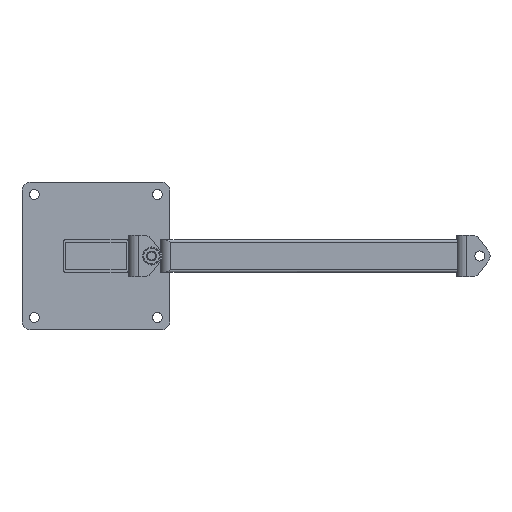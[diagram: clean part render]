
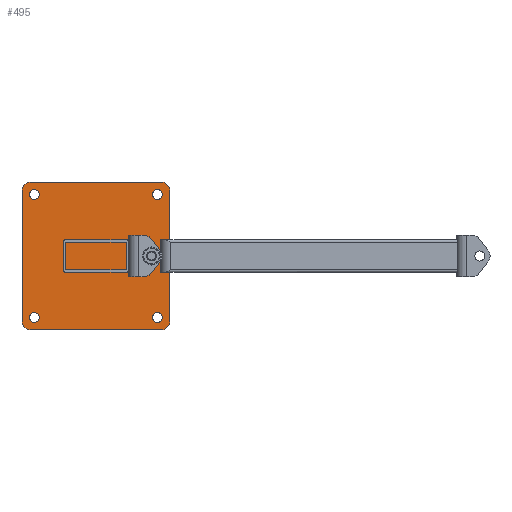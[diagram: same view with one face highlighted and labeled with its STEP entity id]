
A CAD part, front view. The second image highlights one B-rep face of the part: STEP entity #495.
In plain terms, the highlighted planar face has unit normal (0, -1, 0) as drawn and (0, 1, 0) by its records, which use the part's own axes.
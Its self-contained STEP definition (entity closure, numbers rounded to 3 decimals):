
#124=CARTESIAN_POINT('',(-80.,4.,-80.));
#125=DIRECTION('',(0.,1.,0.));
#126=DIRECTION('',(0.,0.,-1.));
#127=AXIS2_PLACEMENT_3D('',#124,#125,#126);
#129=DIRECTION('',(-1.,0.,0.));
#130=VECTOR('',#129,160.);
#131=CARTESIAN_POINT('',(80.,4.,-90.));
#132=LINE('',#131,#130);
#133=CARTESIAN_POINT('',(80.,4.,-80.));
#134=DIRECTION('',(0.,1.,0.));
#135=DIRECTION('',(1.,0.,0.));
#136=AXIS2_PLACEMENT_3D('',#133,#134,#135);
#138=DIRECTION('',(0.,0.,-1.));
#139=VECTOR('',#138,160.);
#140=CARTESIAN_POINT('',(90.,4.,80.));
#141=LINE('',#140,#139);
#142=CARTESIAN_POINT('',(80.,4.,80.));
#143=DIRECTION('',(0.,1.,0.));
#144=DIRECTION('',(0.,0.,1.));
#145=AXIS2_PLACEMENT_3D('',#142,#143,#144);
#147=DIRECTION('',(1.,0.,0.));
#148=VECTOR('',#147,160.);
#149=CARTESIAN_POINT('',(-80.,4.,90.));
#150=LINE('',#149,#148);
#151=CARTESIAN_POINT('',(-80.,4.,80.));
#152=DIRECTION('',(0.,1.,0.));
#153=DIRECTION('',(-1.,0.,0.));
#154=AXIS2_PLACEMENT_3D('',#151,#152,#153);
#156=DIRECTION('',(0.,0.,1.));
#157=VECTOR('',#156,160.);
#158=CARTESIAN_POINT('',(-90.,4.,-80.));
#159=LINE('',#158,#157);
#160=CARTESIAN_POINT('',(-75.,4.,-75.));
#161=DIRECTION('',(0.,-1.,0.));
#162=DIRECTION('',(1.,0.,0.));
#163=AXIS2_PLACEMENT_3D('',#160,#161,#162);
#165=CARTESIAN_POINT('',(-75.,4.,-75.));
#166=DIRECTION('',(0.,-1.,0.));
#167=DIRECTION('',(-1.,0.,0.));
#168=AXIS2_PLACEMENT_3D('',#165,#166,#167);
#170=CARTESIAN_POINT('',(75.,4.,-75.));
#171=DIRECTION('',(0.,-1.,0.));
#172=DIRECTION('',(1.,0.,0.));
#173=AXIS2_PLACEMENT_3D('',#170,#171,#172);
#175=CARTESIAN_POINT('',(75.,4.,-75.));
#176=DIRECTION('',(0.,-1.,0.));
#177=DIRECTION('',(-1.,0.,0.));
#178=AXIS2_PLACEMENT_3D('',#175,#176,#177);
#180=CARTESIAN_POINT('',(-75.,4.,75.));
#181=DIRECTION('',(0.,-1.,0.));
#182=DIRECTION('',(1.,0.,0.));
#183=AXIS2_PLACEMENT_3D('',#180,#181,#182);
#185=CARTESIAN_POINT('',(-75.,4.,75.));
#186=DIRECTION('',(0.,-1.,0.));
#187=DIRECTION('',(-1.,0.,0.));
#188=AXIS2_PLACEMENT_3D('',#185,#186,#187);
#190=CARTESIAN_POINT('',(75.,4.,75.));
#191=DIRECTION('',(0.,-1.,0.));
#192=DIRECTION('',(1.,0.,0.));
#193=AXIS2_PLACEMENT_3D('',#190,#191,#192);
#195=CARTESIAN_POINT('',(75.,4.,75.));
#196=DIRECTION('',(0.,-1.,0.));
#197=DIRECTION('',(-1.,0.,0.));
#198=AXIS2_PLACEMENT_3D('',#195,#196,#197);
#248=CARTESIAN_POINT('',(-69.,4.,-75.));
#249=CARTESIAN_POINT('',(-81.,4.,-75.));
#250=VERTEX_POINT('',#248);
#251=VERTEX_POINT('',#249);
#252=CARTESIAN_POINT('',(81.,4.,-75.));
#253=CARTESIAN_POINT('',(69.,4.,-75.));
#254=VERTEX_POINT('',#252);
#255=VERTEX_POINT('',#253);
#256=CARTESIAN_POINT('',(-69.,4.,75.));
#257=CARTESIAN_POINT('',(-81.,4.,75.));
#258=VERTEX_POINT('',#256);
#259=VERTEX_POINT('',#257);
#260=CARTESIAN_POINT('',(81.,4.,75.));
#261=CARTESIAN_POINT('',(69.,4.,75.));
#262=VERTEX_POINT('',#260);
#263=VERTEX_POINT('',#261);
#268=CARTESIAN_POINT('',(-80.,4.,-90.));
#269=VERTEX_POINT('',#268);
#270=CARTESIAN_POINT('',(-90.,4.,-80.));
#271=VERTEX_POINT('',#270);
#276=CARTESIAN_POINT('',(90.,4.,-80.));
#277=VERTEX_POINT('',#276);
#278=CARTESIAN_POINT('',(80.,4.,-90.));
#279=VERTEX_POINT('',#278);
#284=CARTESIAN_POINT('',(-90.,4.,80.));
#285=VERTEX_POINT('',#284);
#286=CARTESIAN_POINT('',(-80.,4.,90.));
#287=VERTEX_POINT('',#286);
#292=CARTESIAN_POINT('',(80.,4.,90.));
#293=VERTEX_POINT('',#292);
#294=CARTESIAN_POINT('',(90.,4.,80.));
#295=VERTEX_POINT('',#294);
#456=CARTESIAN_POINT('',(0.,4.,0.));
#457=DIRECTION('',(0.,1.,0.));
#458=DIRECTION('',(1.,0.,0.));
#459=AXIS2_PLACEMENT_3D('',#456,#457,#458);
#460=PLANE('',#459);
#461=ORIENTED_EDGE('',*,*,#352,.F.);
#462=ORIENTED_EDGE('',*,*,#368,.F.);
#463=ORIENTED_EDGE('',*,*,#381,.F.);
#464=ORIENTED_EDGE('',*,*,#396,.F.);
#465=ORIENTED_EDGE('',*,*,#409,.F.);
#466=ORIENTED_EDGE('',*,*,#422,.F.);
#467=ORIENTED_EDGE('',*,*,#437,.F.);
#468=ORIENTED_EDGE('',*,*,#449,.F.);
#469=EDGE_LOOP('',(#461,#462,#463,#464,#465,#466,#467,#468));
#470=FACE_OUTER_BOUND('',#469,.F.);
#472=ORIENTED_EDGE('',*,*,#471,.F.);
#474=ORIENTED_EDGE('',*,*,#473,.F.);
#475=EDGE_LOOP('',(#472,#474));
#476=FACE_BOUND('',#475,.F.);
#478=ORIENTED_EDGE('',*,*,#477,.F.);
#480=ORIENTED_EDGE('',*,*,#479,.F.);
#481=EDGE_LOOP('',(#478,#480));
#482=FACE_BOUND('',#481,.F.);
#484=ORIENTED_EDGE('',*,*,#483,.F.);
#486=ORIENTED_EDGE('',*,*,#485,.F.);
#487=EDGE_LOOP('',(#484,#486));
#488=FACE_BOUND('',#487,.F.);
#490=ORIENTED_EDGE('',*,*,#489,.F.);
#492=ORIENTED_EDGE('',*,*,#491,.F.);
#493=EDGE_LOOP('',(#490,#492));
#494=FACE_BOUND('',#493,.F.);
#128=CIRCLE('',#127,10.);
#137=CIRCLE('',#136,10.);
#146=CIRCLE('',#145,10.);
#155=CIRCLE('',#154,10.);
#164=CIRCLE('',#163,6.);
#169=CIRCLE('',#168,6.);
#174=CIRCLE('',#173,6.);
#179=CIRCLE('',#178,6.);
#184=CIRCLE('',#183,6.);
#189=CIRCLE('',#188,6.);
#194=CIRCLE('',#193,6.);
#199=CIRCLE('',#198,6.);
#352=EDGE_CURVE('',#269,#271,#128,.T.);
#368=EDGE_CURVE('',#279,#269,#132,.T.);
#381=EDGE_CURVE('',#277,#279,#137,.T.);
#396=EDGE_CURVE('',#295,#277,#141,.T.);
#409=EDGE_CURVE('',#293,#295,#146,.T.);
#422=EDGE_CURVE('',#287,#293,#150,.T.);
#437=EDGE_CURVE('',#285,#287,#155,.T.);
#449=EDGE_CURVE('',#271,#285,#159,.T.);
#471=EDGE_CURVE('',#250,#251,#164,.T.);
#473=EDGE_CURVE('',#251,#250,#169,.T.);
#477=EDGE_CURVE('',#254,#255,#174,.T.);
#479=EDGE_CURVE('',#255,#254,#179,.T.);
#483=EDGE_CURVE('',#258,#259,#184,.T.);
#485=EDGE_CURVE('',#259,#258,#189,.T.);
#489=EDGE_CURVE('',#262,#263,#194,.T.);
#491=EDGE_CURVE('',#263,#262,#199,.T.);
#495=ADVANCED_FACE('',(#470,#476,#482,#488,#494),#460,.T.);
